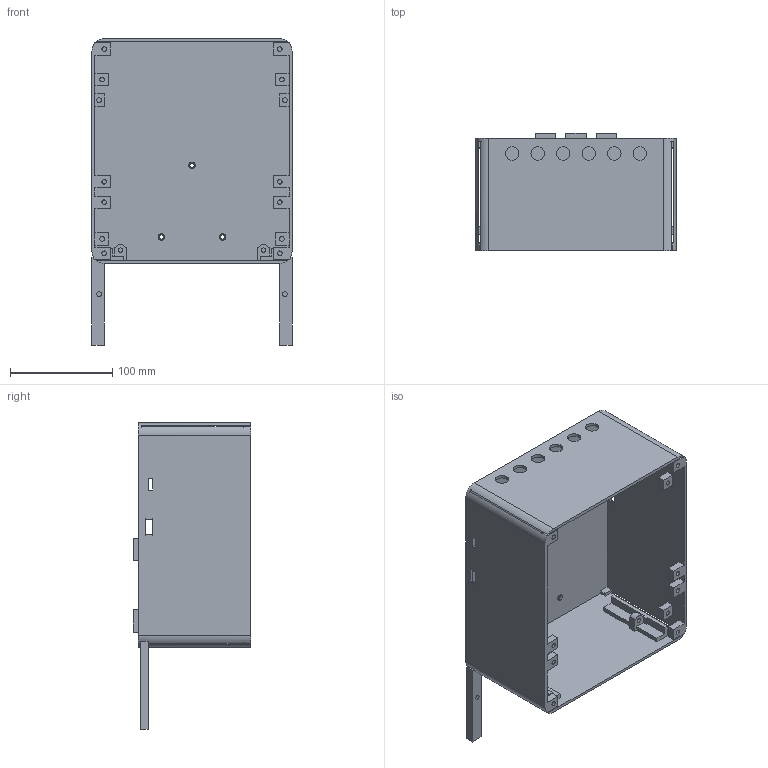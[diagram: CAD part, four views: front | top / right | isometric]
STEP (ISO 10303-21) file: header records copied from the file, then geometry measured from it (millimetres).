
FILE_DESCRIPTION(('FreeCAD Model'),'2;1');
FILE_NAME('Open CASCADE Shape Model','2026-10-14T02:29:04',('FreeCAD'),( 'FreeCAD'),'Open CASCADE STEP processor 7.8','FreeCAD','Unknown');
FILE_SCHEMA(('AUTOMOTIVE_DESIGN { 1 0 10303 214 1 1 1 1 }'));
Length unit declared in the file: millimetre
Products named in the file (1): Open CASCADE STEP translator 7.8 65
Bounding box: 196 x 115.2 x 300 mm (x, y, z)
Volume: 428220.6 mm3; surface area: 280336 mm2
Topology: 1 solids, 1 shells, 222 faces, 580 edges, 388 vertices
Faces by surface type: plane 176, cylinder 46
Full cylindrical faces by diameter (mm): 4.2 x3, 4.5 x18, 6.4 x3, 13.2 x6
Entity records: 6850 total; most frequent: CARTESIAN_POINT 1191, ORIENTED_EDGE 1160, DIRECTION 1138, EDGE_CURVE 580, LINE 468, VECTOR 468, VERTEX_POINT 388, AXIS2_PLACEMENT_3D 335
